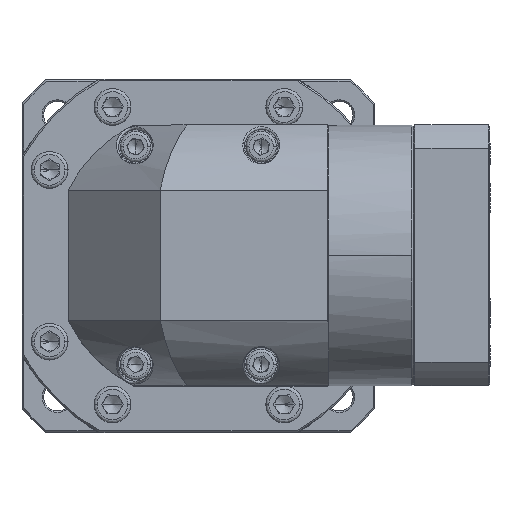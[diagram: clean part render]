
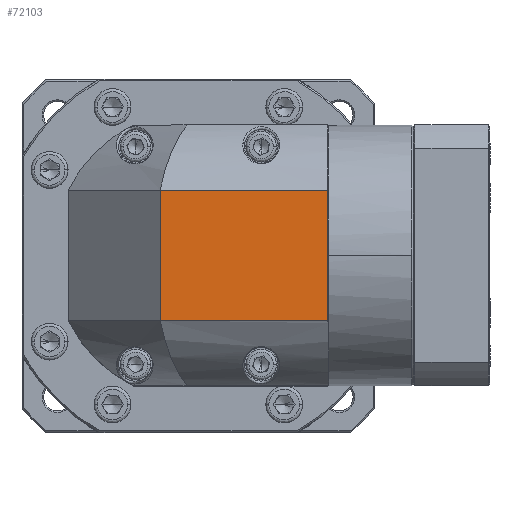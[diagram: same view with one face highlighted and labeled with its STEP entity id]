
A CAD part, top view. The second image highlights one B-rep face of the part: STEP entity #72103.
In plain terms, the highlighted planar face has unit normal (0, 0, 1).
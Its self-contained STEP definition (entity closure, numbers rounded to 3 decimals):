
#2042 = EDGE_LOOP ( 'NONE', ( #146363, #90219, #93567, #12150 ) ) ;
#3513 = CARTESIAN_POINT ( 'NONE',  ( 82.111, 95., 31.809 ) ) ;
#12150 = ORIENTED_EDGE ( 'NONE', *, *, #128607, .T. ) ;
#22767 = CARTESIAN_POINT ( 'NONE',  ( 40.111, 73.786, 31.809 ) ) ;
#27344 = CARTESIAN_POINT ( 'NONE',  ( 82.111, 73.786, 31.809 ) ) ;
#27456 = LINE ( 'NONE', #67485, #116552 ) ;
#27587 = VECTOR ( 'NONE', #40302, 1000. ) ;
#39712 = VECTOR ( 'NONE', #110963, 1000. ) ;
#40302 = DIRECTION ( 'NONE',  ( 0., 1., 0. ) ) ;
#41917 = LINE ( 'NONE', #27344, #27587 ) ;
#46206 = DIRECTION ( 'NONE',  ( 0., 0., 1. ) ) ;
#46958 = DIRECTION ( 'NONE',  ( 0., 1., 0. ) ) ;
#57067 = DIRECTION ( 'NONE',  ( 1., 0., 0. ) ) ;
#58754 = VECTOR ( 'NONE', #46958, 1000. ) ;
#60668 = DIRECTION ( 'NONE',  ( 1., 0., 0. ) ) ;
#67485 = CARTESIAN_POINT ( 'NONE',  ( -17.889, 95., 31.809 ) ) ;
#72103 = ADVANCED_FACE ( 'NONE', ( #127185 ), #102852, .T. ) ;
#77102 = VERTEX_POINT ( 'NONE', #106489 ) ;
#83605 = EDGE_CURVE ( 'NONE', #77102, #99816, #98522, .T. ) ;
#84508 = AXIS2_PLACEMENT_3D ( 'NONE', #22767, #46206, #60668 ) ;
#87120 = CARTESIAN_POINT ( 'NONE',  ( -17.889, 52.573, 31.809 ) ) ;
#90219 = ORIENTED_EDGE ( 'NONE', *, *, #91922, .F. ) ;
#91922 = EDGE_CURVE ( 'NONE', #99816, #118158, #144053, .T. ) ;
#93567 = ORIENTED_EDGE ( 'NONE', *, *, #83605, .F. ) ;
#98522 = LINE ( 'NONE', #87120, #39712 ) ;
#99816 = VERTEX_POINT ( 'NONE', #135938 ) ;
#102852 = PLANE ( 'NONE',  #84508 ) ;
#106489 = CARTESIAN_POINT ( 'NONE',  ( 82.111, 52.573, 31.809 ) ) ;
#110963 = DIRECTION ( 'NONE',  ( -1., 0., 0. ) ) ;
#115535 = CARTESIAN_POINT ( 'NONE',  ( 27.611, 73.786, 31.809 ) ) ;
#116552 = VECTOR ( 'NONE', #57067, 1000. ) ;
#118158 = VERTEX_POINT ( 'NONE', #127222 ) ;
#127185 = FACE_OUTER_BOUND ( 'NONE', #2042, .T. ) ;
#127222 = CARTESIAN_POINT ( 'NONE',  ( 27.611, 95., 31.809 ) ) ;
#128607 = EDGE_CURVE ( 'NONE', #77102, #142439, #41917, .T. ) ;
#131381 = EDGE_CURVE ( 'NONE', #118158, #142439, #27456, .T. ) ;
#135938 = CARTESIAN_POINT ( 'NONE',  ( 27.611, 52.573, 31.809 ) ) ;
#142439 = VERTEX_POINT ( 'NONE', #3513 ) ;
#144053 = LINE ( 'NONE', #115535, #58754 ) ;
#146363 = ORIENTED_EDGE ( 'NONE', *, *, #131381, .F. ) ;
